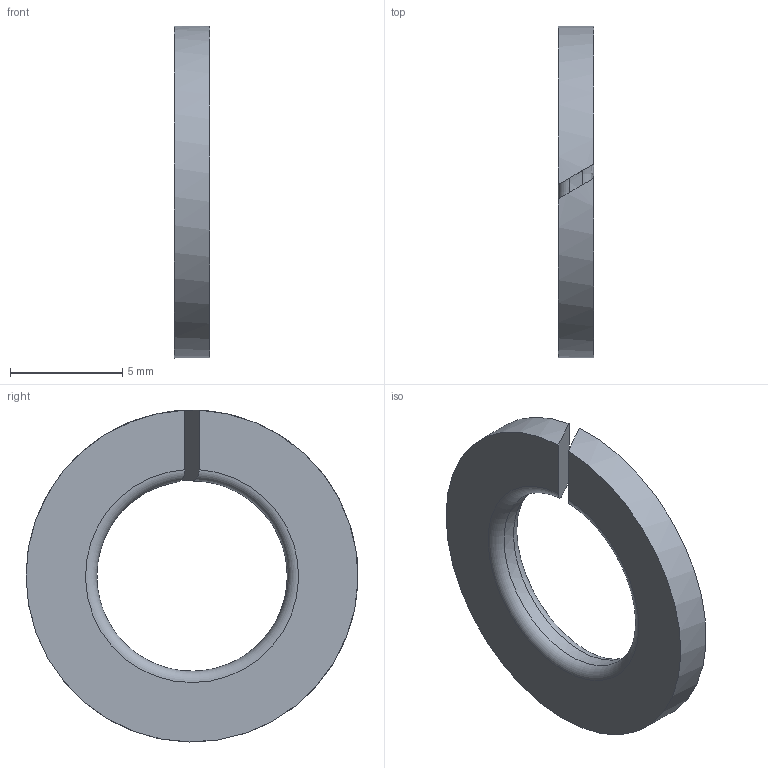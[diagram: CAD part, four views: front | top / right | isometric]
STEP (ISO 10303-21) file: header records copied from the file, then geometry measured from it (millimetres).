
FILE_DESCRIPTION(/* description */ ('Federring DIN 128 - A8','CAx-IF Rec.Pracs.---Representation and Presentation of Product Manufacturing Information (PMI)---4.0---2014-10-13'),/* implementation_level */ '2;1');
FILE_NAME(/* name */ 'G:\Alle CAD Daten\CAMTEC_2020_Pack and Go\PSU CPS-i3000 - CPS-i2000\2530382.stp',/* time_stamp */ '2020-09-20T20:01:30+02:00',/* author */ ('rryba'),/* organization */ (''),/* preprocessor_version */ 'ST-DEVELOPER v18.1',/* originating_system */ 'Autodesk Inventor 2021',/* authorisation */ '');
FILE_SCHEMA (('AP242_MANAGED_MODEL_BASED_3D_ENGINEERING_MIM_LF { 1 0 10303 442 1 1 4 }'));
Length unit declared in the file: millimetre
Products named in the file (1): 2530382
Bounding box: 1.6 x 14.8 x 14.8 mm (x, y, z)
Volume: 178.3 mm3; surface area: 342.1 mm2
Topology: 1 solids, 1 shells, 9 faces, 28 edges, 26 vertices
Faces by surface type: plane 4, cylinder 3, torus 2
Entity records: 391 total; most frequent: CARTESIAN_POINT 93, DIRECTION 53, ORIENTED_EDGE 42, AXIS2_PLACEMENT_3D 24, EDGE_CURVE 21, VERTEX_POINT 14, STYLED_ITEM 10, CIRCLE 10
